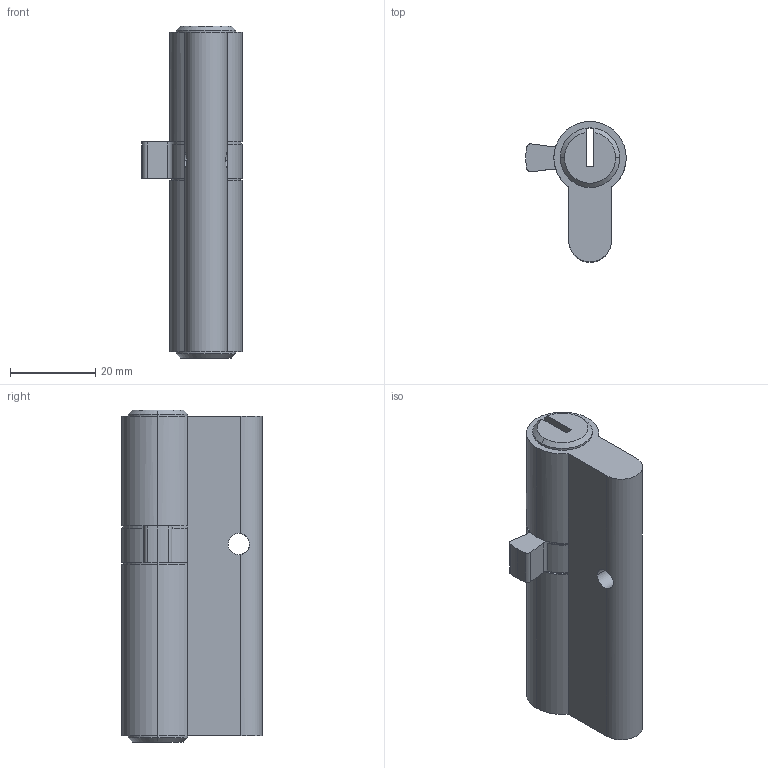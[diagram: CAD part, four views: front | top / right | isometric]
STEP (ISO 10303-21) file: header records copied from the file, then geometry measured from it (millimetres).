
FILE_DESCRIPTION (( 'STEP AP214' ), '1' );
FILE_NAME ('TPL-H-EU-518-R 29Oct2024.STEP', '2024-10-29T22:25:38', ( '' ), ( '' ), 'SwSTEP 2.0', 'SolidWorks 2023', '' );
FILE_SCHEMA (( 'AUTOMOTIVE_DESIGN' ));
Length unit declared in the file: millimetre
Products named in the file (1): TPL-H-EU-518-R 29Oct2024
Bounding box: 23.6 x 33 x 78 mm (x, y, z)
Volume: 27883.4 mm3; surface area: 9158.8 mm2
Topology: 1 solids, 1 shells, 52 faces, 144 edges, 90 vertices
Faces by surface type: cylinder 30, plane 16, cone 6
Entity records: 1775 total; most frequent: CARTESIAN_POINT 363, DIRECTION 314, ORIENTED_EDGE 288, EDGE_CURVE 144, AXIS2_PLACEMENT_3D 125, VERTEX_POINT 90, CIRCLE 72, LINE 64
